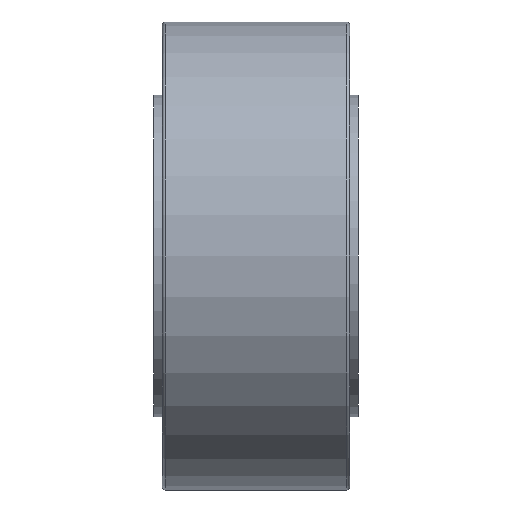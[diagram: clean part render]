
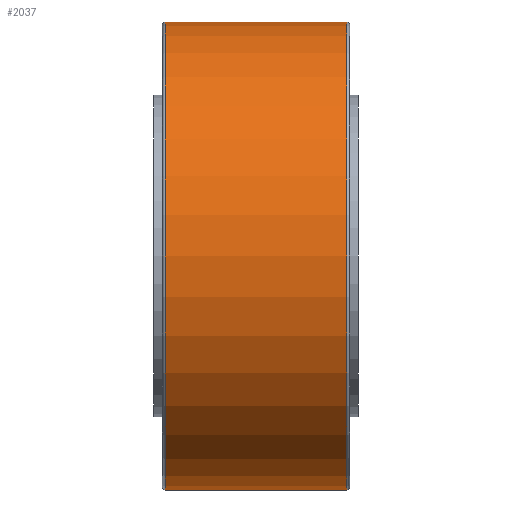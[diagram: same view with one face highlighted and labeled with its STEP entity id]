
A CAD part, front view. The second image highlights one B-rep face of the part: STEP entity #2037.
In plain terms, the highlighted cylindrical face has radius 80 mm (diameter 160 mm), a partial arc.
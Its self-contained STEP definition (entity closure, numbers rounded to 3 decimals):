
#541 = AXIS2_PLACEMENT_3D ( 'NONE', #567, #581, #563 ) ;
#563 = DIRECTION ( 'NONE',  ( 0., 0., 1. ) ) ;
#567 = CARTESIAN_POINT ( 'NONE',  ( -41.122, 0., 0. ) ) ;
#568 = DIRECTION ( 'NONE',  ( -1., 0., 0. ) ) ;
#569 = VECTOR ( 'NONE', #568, 1000. ) ;
#570 = CARTESIAN_POINT ( 'NONE',  ( -41.122, 0., -80. ) ) ;
#572 = LINE ( 'NONE', #570, #569 ) ;
#573 = CYLINDRICAL_SURFACE ( 'NONE', #541, 80. ) ;
#575 = FACE_OUTER_BOUND ( 'NONE', #2046, .T. ) ;
#581 = DIRECTION ( 'NONE',  ( -1., 0., 0. ) ) ;
#612 = CARTESIAN_POINT ( 'NONE',  ( -41.122, 0., 80. ) ) ;
#627 = VECTOR ( 'NONE', #649, 1000. ) ;
#649 = DIRECTION ( 'NONE',  ( -1., 0., 0. ) ) ;
#651 = LINE ( 'NONE', #612, #627 ) ;
#912 = DIRECTION ( 'NONE',  ( 0., 0., -1. ) ) ;
#913 = DIRECTION ( 'NONE',  ( 1., 0., 0. ) ) ;
#918 = CIRCLE ( 'NONE', #926, 80. ) ;
#925 = CARTESIAN_POINT ( 'NONE',  ( -31., 0., 0. ) ) ;
#926 = AXIS2_PLACEMENT_3D ( 'NONE', #925, #913, #912 ) ;
#1004 = AXIS2_PLACEMENT_3D ( 'NONE', #1066, #1065, #1064 ) ;
#1064 = DIRECTION ( 'NONE',  ( 0., 0., 1. ) ) ;
#1065 = DIRECTION ( 'NONE',  ( -1., 0., 0. ) ) ;
#1066 = CARTESIAN_POINT ( 'NONE',  ( 31., 0., 0. ) ) ;
#1067 = CIRCLE ( 'NONE', #1004, 80. ) ;
#1294 = CARTESIAN_POINT ( 'NONE',  ( -31., 0., -80. ) ) ;
#1295 = CARTESIAN_POINT ( 'NONE',  ( 31., 0., -80. ) ) ;
#1309 = CARTESIAN_POINT ( 'NONE',  ( 31., 0., 80. ) ) ;
#1346 = CARTESIAN_POINT ( 'NONE',  ( -31., 0., 80. ) ) ;
#1417 = ORIENTED_EDGE ( 'NONE', *, *, #1441, .T. ) ;
#1441 = EDGE_CURVE ( 'NONE', #1704, #1733, #918, .T. ) ;
#1442 = ORIENTED_EDGE ( 'NONE', *, *, #2086, .T. ) ;
#1528 = EDGE_CURVE ( 'NONE', #1732, #1731, #1067, .T. ) ;
#1704 = VERTEX_POINT ( 'NONE', #1346 ) ;
#1731 = VERTEX_POINT ( 'NONE', #1309 ) ;
#1732 = VERTEX_POINT ( 'NONE', #1295 ) ;
#1733 = VERTEX_POINT ( 'NONE', #1294 ) ;
#2036 = EDGE_CURVE ( 'NONE', #1732, #1733, #572, .T. ) ;
#2037 = ADVANCED_FACE ( 'NONE', ( #575 ), #573, .T. ) ;
#2046 = EDGE_LOOP ( 'NONE', ( #2078, #2058, #1442, #1417 ) ) ;
#2058 = ORIENTED_EDGE ( 'NONE', *, *, #1528, .T. ) ;
#2078 = ORIENTED_EDGE ( 'NONE', *, *, #2036, .F. ) ;
#2086 = EDGE_CURVE ( 'NONE', #1731, #1704, #651, .T. ) ;
